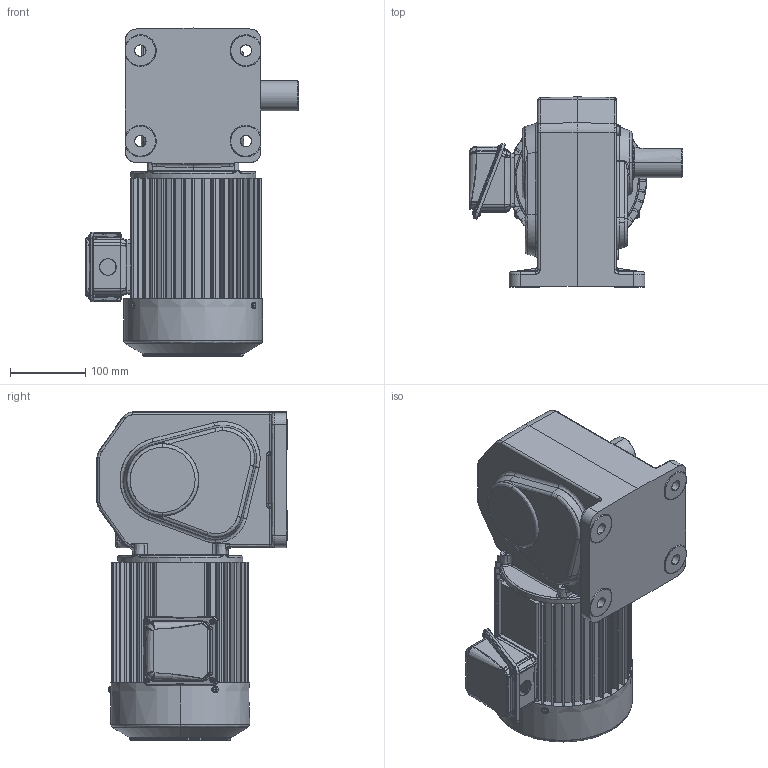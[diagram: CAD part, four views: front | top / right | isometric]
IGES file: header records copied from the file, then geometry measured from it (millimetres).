
Start section: SolidWorks IGES file using analytic representation for surfaces
Global section: file name: \\100.100.100.8\1_共有作業フォルダ\1-5_３Ｄデータ\solidworks\personal-folder\H.Nagayama\HL外形\HL(3D)\igs\TMHL-15-(5~60)B.IGS; native system: SolidWorks 2018; preprocessor: SolidWorks 2018; author: sigma-giken; date: 200326.115722; units: millimetre
Bounding box: 283 x 252 x 435 mm (x, y, z)
Surface area: 748102.9 mm2 (no closed solid volume)
Topology: 0 solids, 0 shells, 2398 faces, 26788 edges, 26728 vertices
Faces by surface type: bspline 1222, revolution 1176
